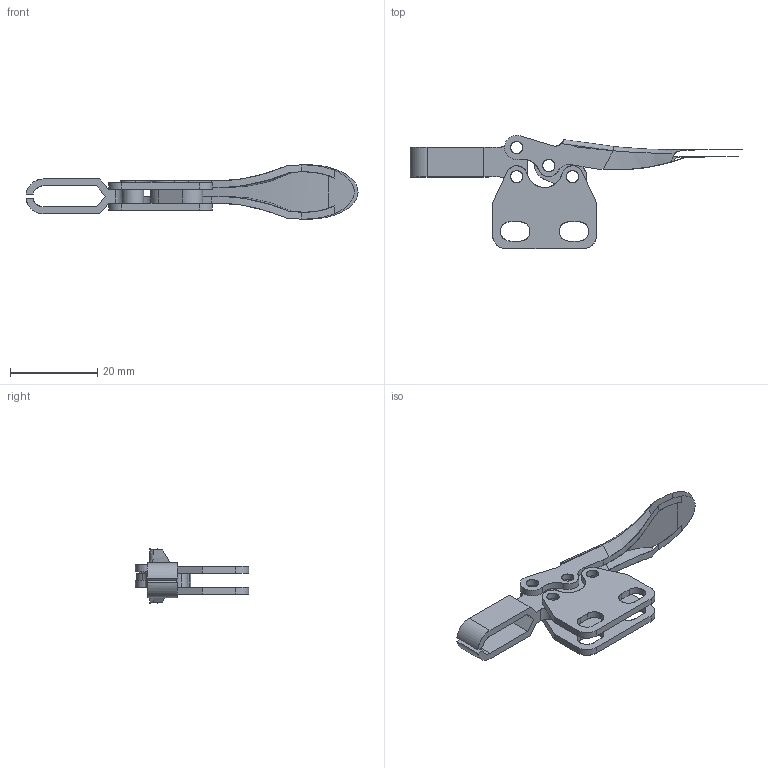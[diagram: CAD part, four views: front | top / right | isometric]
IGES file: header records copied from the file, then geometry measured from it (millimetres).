
Start section: Comment
Global section: file name: 201i.igs; native system:  By Spatial Corp.; preprocessor: XPlus PS/IGES 3.0; author: Author; organization: Title; date: 20050217.075041; units: inch
Bounding box: 76.17 x 26 x 12.49 mm (x, y, z)
Surface area: 4444.9 mm2 (no closed solid volume)
Topology: 0 solids, 0 shells, 133 faces, 740 edges, 740 vertices
Faces by surface type: revolution 82, extrusion 49, bspline 2
